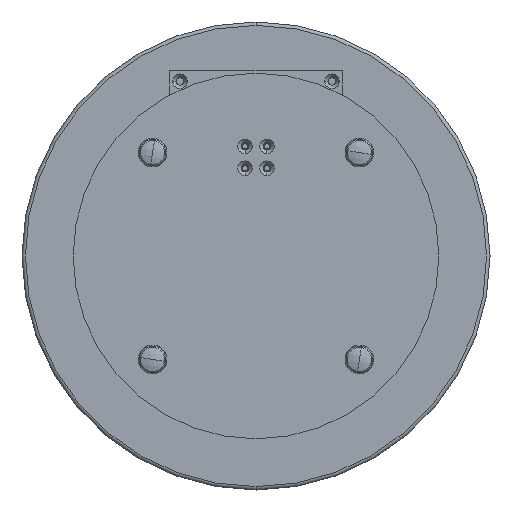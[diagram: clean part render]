
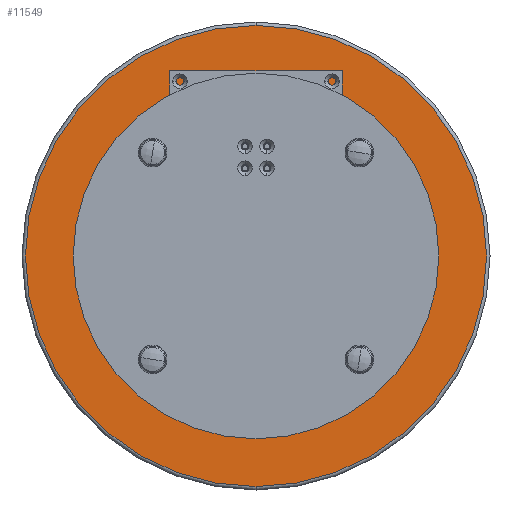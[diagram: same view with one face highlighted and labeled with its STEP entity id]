
A CAD part, front view. The second image highlights one B-rep face of the part: STEP entity #11549.
In plain terms, the highlighted planar face has unit normal (0, -1, 0).
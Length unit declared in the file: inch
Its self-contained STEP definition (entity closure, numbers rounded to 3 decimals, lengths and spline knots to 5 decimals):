
#225 = AXIS2_PLACEMENT_3D ( 'NONE', #6864, #8789, #348 ) ;
#348 = DIRECTION ( 'NONE',  ( 0., 0., 1. ) ) ;
#451 = EDGE_CURVE ( 'NONE', #3144, #8022, #9708, .T. ) ;
#1113 = CIRCLE ( 'NONE', #3872, 7.88189 ) ;
#1427 = AXIS2_PLACEMENT_3D ( 'NONE', #5522, #2635, #4623 ) ;
#2205 = FACE_OUTER_BOUND ( 'NONE', #5748, .T. ) ;
#2454 = DIRECTION ( 'NONE',  ( 0., 0., 1. ) ) ;
#2635 = DIRECTION ( 'NONE',  ( 0., 1., 0. ) ) ;
#3132 = PLANE ( 'NONE',  #225 ) ;
#3144 = VERTEX_POINT ( 'NONE', #6274 ) ;
#3708 = CARTESIAN_POINT ( 'NONE',  ( 0., 0., -7.88189 ) ) ;
#3872 = AXIS2_PLACEMENT_3D ( 'NONE', #8906, #9723, #2454 ) ;
#4434 = EDGE_CURVE ( 'NONE', #8022, #3144, #1113, .T. ) ;
#4623 = DIRECTION ( 'NONE',  ( 0., 0., 1. ) ) ;
#5522 = CARTESIAN_POINT ( 'NONE',  ( 0., 0., 0. ) ) ;
#5748 = EDGE_LOOP ( 'NONE', ( #10286, #12003 ) ) ;
#6274 = CARTESIAN_POINT ( 'NONE',  ( 0., 0., 7.88189 ) ) ;
#6864 = CARTESIAN_POINT ( 'NONE',  ( 0., 0., 0. ) ) ;
#8022 = VERTEX_POINT ( 'NONE', #3708 ) ;
#8789 = DIRECTION ( 'NONE',  ( 0., 1., 0. ) ) ;
#8906 = CARTESIAN_POINT ( 'NONE',  ( 0., 0., 0. ) ) ;
#9708 = CIRCLE ( 'NONE', #1427, 7.88189 ) ;
#9723 = DIRECTION ( 'NONE',  ( 0., 1., 0. ) ) ;
#10286 = ORIENTED_EDGE ( 'NONE', *, *, #451, .F. ) ;
#11549 = ADVANCED_FACE ( 'NONE', ( #2205 ), #3132, .F. ) ;
#12003 = ORIENTED_EDGE ( 'NONE', *, *, #4434, .F. ) ;
